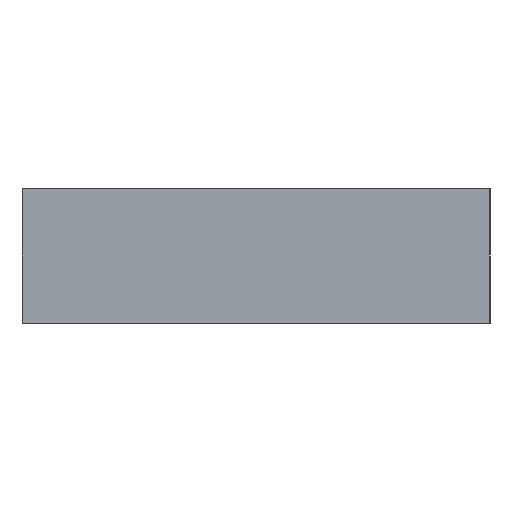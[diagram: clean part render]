
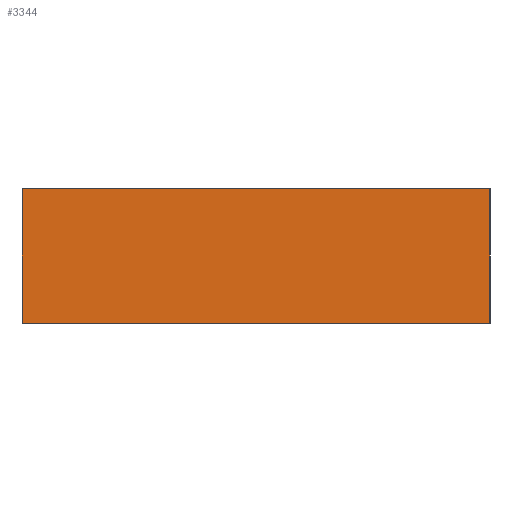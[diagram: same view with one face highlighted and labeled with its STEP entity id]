
A CAD part, left-side view. The second image highlights one B-rep face of the part: STEP entity #3344.
In plain terms, the highlighted planar face has unit normal (-1, 0, 0).
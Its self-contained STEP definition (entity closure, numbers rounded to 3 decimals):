
#160 = EDGE_CURVE ( 'NONE', #1931, #2822, #3448, .T. ) ;
#732 = EDGE_CURVE ( 'NONE', #4392, #5638, #2866, .T. ) ;
#917 = VECTOR ( 'NONE', #4172, 1000. ) ;
#1037 = VECTOR ( 'NONE', #2270, 1000. ) ;
#1150 = CARTESIAN_POINT ( 'NONE',  ( -182., 85.5, 0. ) ) ;
#1555 = LINE ( 'NONE', #6211, #917 ) ;
#1576 = FACE_OUTER_BOUND ( 'NONE', #1862, .T. ) ;
#1768 = LINE ( 'NONE', #1150, #2478 ) ;
#1862 = EDGE_LOOP ( 'NONE', ( #6388, #3809, #3156, #5994 ) ) ;
#1931 = VERTEX_POINT ( 'NONE', #5789 ) ;
#2270 = DIRECTION ( 'NONE',  ( 0., 0., -1. ) ) ;
#2363 = AXIS2_PLACEMENT_3D ( 'NONE', #3946, #5026, #3413 ) ;
#2478 = VECTOR ( 'NONE', #6373, 1000. ) ;
#2822 = VERTEX_POINT ( 'NONE', #5802 ) ;
#2866 = LINE ( 'NONE', #5997, #5871 ) ;
#3156 = ORIENTED_EDGE ( 'NONE', *, *, #5827, .F. ) ;
#3344 = ADVANCED_FACE ( 'NONE', ( #1576 ), #4940, .F. ) ;
#3413 = DIRECTION ( 'NONE',  ( 0., 0., -1. ) ) ;
#3448 = LINE ( 'NONE', #5380, #1037 ) ;
#3748 = CARTESIAN_POINT ( 'NONE',  ( -182., -85.5, 49.3 ) ) ;
#3809 = ORIENTED_EDGE ( 'NONE', *, *, #732, .F. ) ;
#3873 = EDGE_CURVE ( 'NONE', #2822, #5638, #1768, .T. ) ;
#3946 = CARTESIAN_POINT ( 'NONE',  ( -182., 85.5, 49.3 ) ) ;
#4172 = DIRECTION ( 'NONE',  ( 0., -1., 0. ) ) ;
#4392 = VERTEX_POINT ( 'NONE', #3748 ) ;
#4450 = CARTESIAN_POINT ( 'NONE',  ( -182., -85.5, 0. ) ) ;
#4940 = PLANE ( 'NONE',  #2363 ) ;
#5026 = DIRECTION ( 'NONE',  ( 1., 0., 0. ) ) ;
#5380 = CARTESIAN_POINT ( 'NONE',  ( -182., 85.5, 49.3 ) ) ;
#5638 = VERTEX_POINT ( 'NONE', #4450 ) ;
#5789 = CARTESIAN_POINT ( 'NONE',  ( -182., 85.5, 49.3 ) ) ;
#5802 = CARTESIAN_POINT ( 'NONE',  ( -182., 85.5, 0. ) ) ;
#5827 = EDGE_CURVE ( 'NONE', #1931, #4392, #1555, .T. ) ;
#5871 = VECTOR ( 'NONE', #6023, 1000. ) ;
#5994 = ORIENTED_EDGE ( 'NONE', *, *, #160, .T. ) ;
#5997 = CARTESIAN_POINT ( 'NONE',  ( -182., -85.5, 49.3 ) ) ;
#6023 = DIRECTION ( 'NONE',  ( 0., 0., -1. ) ) ;
#6211 = CARTESIAN_POINT ( 'NONE',  ( -182., 85.5, 49.3 ) ) ;
#6373 = DIRECTION ( 'NONE',  ( 0., -1., 0. ) ) ;
#6388 = ORIENTED_EDGE ( 'NONE', *, *, #3873, .T. ) ;
